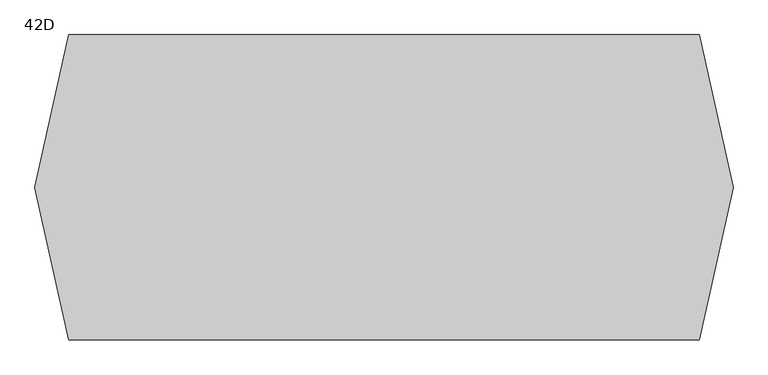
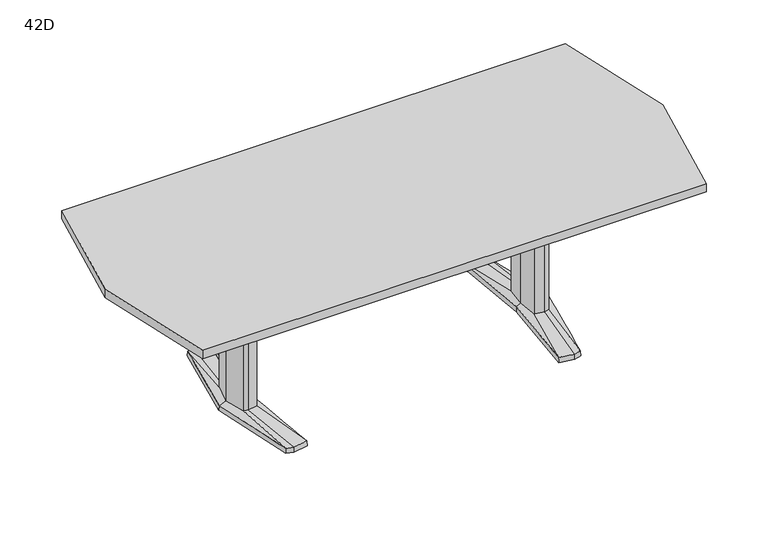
"""IFC4 building model written with IfcOpenShell, lengths in millimetres: furniture geometry, Coalesse_AM_Table_Conference_ETable2_Faceted_96in_AluminiumBase : 42D."""

from ifc_helpers import new_model, si_unit, frame, origin, place, context, project, spatial, polyline, outline, extrude, source, transform, mapped, element, save
from ifc_brep_helpers import plane_surface, spline_surface, advanced_brep


def furniture_42d_1a5c040f(model_context):
    return source(origin(), model_context, "Body", "SolidModel", [
        advanced_brep(
        [(614.8503471, -379.3768856, 25.4), (644.5756636, -371.5332654, 25.4), (668.2327243, -89.293702, 36.5125), (648.9795254, -94.605478, 36.5125), (606.0521001, -87.0529327, 36.5125), (551.7612538, -368.5071562, 25.4), (597.9364207, 0.0, 36.5125), (579.8389754, 0.3970149, 25.4), (606.0521001, 87.0529327, 36.5125), (551.7615002, 368.5172593, 25.4), (648.9795254, 94.605478, 36.5125), (614.8502233, 379.3769183, 25.4), (668.2327243, 89.293702, 36.5125), (644.7535458, 371.4863276, 25.4), (692.1595251, 0.0, 36.5125), (721.4851663, 0.0003516, 25.4), (578.2468742, 0.3968871, 3.175), (550.06875, 369.8367279, 3.175), (614.9213004, 381.0, 3.175), (646.1093245, 372.7704151, 3.175), (723.10625, 0.0, 3.175), (645.9309817, -372.8174744, 3.175), (614.9213004, -381.0, 3.175), (550.06875, -369.8264415, 3.175), (649.5979264, 107.6121478, 3.175), (594.3065451, 97.8843184, 3.175), (585.1810887, 0.0, 3.175), (594.3065451, -97.8843184, 3.175), (649.5979264, -107.6121478, 3.175), (678.6183473, -99.6056872, 3.175), (705.3083085, 0.0, 3.175), (678.6183473, 99.6056872, 3.175), (613.4286812, 346.9152841, 3.175), (557.7811371, 337.3364985, 3.175), (560.1889918, 324.8641942, 3.175), (612.8600644, 333.9306305, 3.175), (648.6725609, 324.4807859, 3.175), (647.5544526, 337.9105158, 3.175), (613.4286812, -346.9152841, 3.175), (647.5544526, -337.9105158, 3.175), (648.6725609, -324.4807859, 3.175), (612.8600644, -333.9306305, 3.175), (560.1889918, -324.8641942, 3.175), (557.7811371, -337.3364985, 3.175), (649.5979264, 107.6121478, 0.0), (678.6183473, 99.6056872, 0.0), (705.3083085, 0.0, 0.0), (678.6183473, -99.6056872, 0.0), (649.5979264, -107.6121478, 0.0), (594.3065451, -97.8843184, 0.0), (585.1810887, 0.0, 0.0), (594.3065451, 97.8843184, 0.0), (613.4286812, 346.9152841, 0.0), (647.5544526, 337.9105158, 0.0), (648.6725609, 324.4807859, 0.0), (612.8600644, 333.9306305, 0.0), (560.1889918, 324.8641942, 0.0), (557.7811371, 337.3364985, 0.0), (613.4286812, -346.9152841, 0.0), (557.7811371, -337.3364985, 0.0), (560.1889918, -324.8641942, 0.0), (612.8600644, -333.9306305, 0.0), (648.6725609, -324.4807859, 0.0), (647.5544526, -337.9105158, 0.0), (668.2327243, 89.293702, 698.5), (648.9795254, 94.605478, 698.5), (606.0521001, 87.0529327, 698.5), (597.9364207, 0.0, 698.5), (606.0521001, -87.0529327, 698.5), (648.9795254, -94.605478, 698.5), (668.2327243, -89.293702, 698.5), (692.1595251, 0.0, 698.5)],
        [
            (0, 1),
            (1, 2),
            (2, 3),
            (3, 0),
            (3, 4),
            (4, 5),
            (5, 0),
            (4, 6),
            (6, 7),
            (7, 5),
            (6, 8),
            (8, 9),
            (9, 7),
            (8, 10),
            (10, 11),
            (11, 9),
            (10, 12),
            (12, 13),
            (13, 11),
            (12, 14),
            (14, 15),
            (15, 13),
            (1, 15),
            (14, 2),
            (16, 17),
            (17, 18),
            (18, 19),
            (19, 20),
            (20, 21),
            (21, 22),
            (22, 23),
            (23, 16),
            (24, 25),
            (25, 26),
            (26, 27),
            (27, 28),
            (28, 29),
            (29, 30),
            (30, 31),
            (31, 24),
            (32, 33),
            (33, 34),
            (34, 35),
            (35, 36),
            (36, 37),
            (37, 32),
            (38, 39),
            (39, 40),
            (40, 41),
            (41, 42),
            (42, 43),
            (43, 38),
            (16, 7),
            (9, 17),
            (11, 18),
            (13, 19),
            (15, 20),
            (1, 21),
            (0, 22),
            (5, 23),
            (44, 45),
            (45, 46),
            (46, 47),
            (47, 48),
            (48, 49),
            (49, 50),
            (50, 51),
            (51, 44),
            (52, 53),
            (53, 54),
            (54, 55),
            (55, 56),
            (56, 57),
            (57, 52),
            (58, 59),
            (59, 60),
            (60, 61),
            (61, 62),
            (62, 63),
            (63, 58),
            (44, 24),
            (31, 45),
            (30, 46),
            (29, 47),
            (28, 48),
            (27, 49),
            (26, 50),
            (25, 51),
            (52, 32),
            (37, 53),
            (36, 54),
            (35, 55),
            (34, 56),
            (33, 57),
            (58, 38),
            (43, 59),
            (42, 60),
            (41, 61),
            (40, 62),
            (39, 63),
            (64, 65),
            (65, 66),
            (66, 67),
            (67, 68),
            (68, 69),
            (69, 70),
            (70, 71),
            (71, 64),
            (71, 14),
            (12, 64),
            (70, 2),
            (69, 3),
            (68, 4),
            (67, 6),
            (66, 8),
            (65, 10),
        ],
        [
            spline_surface(1, 1, [[(644.5756636, -371.5332654, 25.4), (614.8503471, -379.3768856, 25.4)], [(668.2327243, -89.293702, 36.5125), (648.9795254, -94.605478, 36.5125)]], [2, 2], [2, 2], [0.0, 1.0], [0.0, 1.0]),
            spline_surface(1, 1, [[(614.8503471, -379.3768856, 25.4), (551.7612538, -368.5071562, 25.4)], [(648.9795254, -94.605478, 36.5125), (606.0521001, -87.0529327, 36.5125)]], [2, 2], [2, 2], [0.0, 1.0], [0.0, 1.0]),
            spline_surface(1, 1, [[(551.7612538, -368.5071562, 25.4), (579.8389754, 0.3970149, 25.4)], [(606.0521001, -87.0529327, 36.5125), (597.9364207, 0.0, 36.5125)]], [2, 2], [2, 2], [0.0, 1.0], [0.0, 1.0]),
            spline_surface(1, 1, [[(579.8389754, 0.3970149, 25.4), (551.7615002, 368.5172593, 25.4)], [(597.9364207, 0.0, 36.5125), (606.0521001, 87.0529327, 36.5125)]], [2, 2], [2, 2], [0.0, 1.0], [0.0, 1.0]),
            spline_surface(1, 1, [[(551.7615002, 368.5172593, 25.4), (614.8502233, 379.3769183, 25.4)], [(606.0521001, 87.0529327, 36.5125), (648.9795254, 94.605478, 36.5125)]], [2, 2], [2, 2], [0.0, 1.0], [0.0, 1.0]),
            spline_surface(1, 1, [[(614.8502233, 379.3769183, 25.4), (644.7535458, 371.4863276, 25.4)], [(648.9795254, 94.605478, 36.5125), (668.2327243, 89.293702, 36.5125)]], [2, 2], [2, 2], [0.0, 1.0], [0.0, 1.0]),
            spline_surface(1, 1, [[(644.7535458, 371.4863276, 25.4), (721.4851663, 0.0003516, 25.4)], [(668.2327243, 89.293702, 36.5125), (692.1595251, 0.0, 36.5125)]], [2, 2], [2, 2], [0.0, 1.0], [0.0, 1.0]),
            spline_surface(1, 1, [[(721.4851663, 0.0003516, 25.4), (644.5756636, -371.5332654, 25.4)], [(692.1595251, 0.0, 36.5125), (668.2327243, -89.293702, 36.5125)]], [2, 2], [2, 2], [0.0, 1.0], [0.0, 1.0]),
            plane_surface(frame((615.4216914, 0.0450143, 3.175), z_axis=(0.0, 0.0, -1.0), x_axis=(-0.9669048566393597, -0.2551372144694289, 0.0))),
            plane_surface(frame((564.1578121, 185.1168075, 3.175), z_axis=(-0.9945699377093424, -0.07585840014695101, 0.0712470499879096), x_axis=(-0.07605167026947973, 0.9971038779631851, 0.0))),
            plane_surface(frame((582.4950252, 375.418364, 3.175), z_axis=(-0.1692071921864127, 0.9830019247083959, 0.07124704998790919), x_axis=(0.985506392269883, 0.16963829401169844, 0.0))),
            plane_surface(frame((630.5153124, 376.8852076, 3.175), z_axis=(0.2544888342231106, 0.9644476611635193, 0.07124704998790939), x_axis=(0.9669048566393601, -0.25513721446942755, 0.0))),
            plane_surface(frame((684.6077872, 186.3852076, 3.175), z_axis=(0.9768383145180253, 0.2017690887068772, 0.07124704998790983), x_axis=(0.20228315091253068, -0.9793270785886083, 0.0))),
            plane_surface(frame((684.5186158, -186.4087372, 3.175), z_axis=(0.9767507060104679, -0.20219276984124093, 0.07124704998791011), x_axis=(-0.2027079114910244, -0.9792392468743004, 0.0))),
            plane_surface(frame((630.426141, -376.9087372, 3.175), z_axis=(0.2544888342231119, -0.9644476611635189, 0.0712470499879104), x_axis=(-0.9669048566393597, -0.2551372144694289, 0.0))),
            plane_surface(frame((582.4950252, -375.4132207, 3.175), z_axis=(-0.16935861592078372, -0.982975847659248, 0.07124704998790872), x_axis=(-0.9854802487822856, 0.16979010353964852, 0.0))),
            plane_surface(frame((564.1578121, -184.7147772, 3.175), z_axis=(-0.9945820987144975, 0.07569878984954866, 0.07124704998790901), x_axis=(0.07589165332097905, 0.9971160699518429, 0.0))),
            plane_surface(frame((652.3571479, 106.8509046, 0.0), z_axis=(0.0, 0.0, -1.0000000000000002), x_axis=(-0.9639855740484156, 0.26595453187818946, 0.0))),
            plane_surface(frame((649.5979264, 107.6121478, 3.175), z_axis=(0.26595453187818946, 0.9639855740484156, 0.0), x_axis=(0.0, 0.0, -1.0))),
            plane_surface(frame((678.6183473, 99.6056872, 3.175), z_axis=(0.9659241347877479, 0.2588253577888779, 0.0), x_axis=(0.0, 0.0, -1.0))),
            plane_surface(frame((705.3083085, 0.0, 3.175), z_axis=(0.9659241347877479, -0.2588253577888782, 0.0), x_axis=(0.0, 0.0, -1.0))),
            plane_surface(frame((678.6183473, -99.6056872, 3.175), z_axis=(0.26595453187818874, -0.9639855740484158, 0.0), x_axis=(0.0, 0.0, -1.0))),
            plane_surface(frame((649.5979264, -107.6121478, 3.175), z_axis=(-0.17327617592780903, -0.9848732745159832, 0.0), x_axis=(0.0, 0.0, -1.0))),
            plane_surface(frame((594.3065451, -97.8843184, 3.175), z_axis=(-0.9956824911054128, -0.0928244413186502, 0.0), x_axis=(0.0, 0.0, -1.0))),
            plane_surface(frame((585.1810887, 0.0, 3.175), z_axis=(-0.9956824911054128, 0.09282444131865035, 0.0), x_axis=(0.0, 0.0, -1.0))),
            plane_surface(frame((594.3065451, 97.8843184, 3.175), z_axis=(-0.17327617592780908, 0.984873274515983, 0.0), x_axis=(0.0, 0.0, -1.0))),
            plane_surface(frame((613.4286812, 346.9152841, 3.175), z_axis=(0.25513721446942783, 0.9669048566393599, 0.0), x_axis=(0.0, 0.0, -1.0))),
            plane_surface(frame((647.5544526, 337.9105158, 3.175), z_axis=(0.9965521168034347, 0.0829691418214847, 0.0), x_axis=(0.0, 0.0, -1.0))),
            plane_surface(frame((648.6725609, 324.4807859, 3.175), z_axis=(-0.25513721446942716, -0.9669048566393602, 0.0), x_axis=(0.0, 0.0, -1.0))),
            plane_surface(frame((612.8600644, 333.9306305, 3.175), z_axis=(0.16963829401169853, -0.985506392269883, 0.0), x_axis=(0.0, 0.0, -1.0))),
            plane_surface(frame((560.1889918, 324.8641942, 3.175), z_axis=(-0.9818699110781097, -0.18955600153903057, 0.0), x_axis=(0.0, 0.0, -1.0))),
            plane_surface(frame((557.7811371, 337.3364985, 3.175), z_axis=(-0.16963829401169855, 0.9855063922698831, 0.0), x_axis=(0.0, 0.0, -1.0))),
            plane_surface(frame((613.4286812, -346.9152841, 3.175), z_axis=(-0.1696382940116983, -0.9855063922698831, 0.0), x_axis=(0.0, 0.0, -1.0))),
            plane_surface(frame((557.7811371, -337.3364985, 3.175), z_axis=(-0.9818699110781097, 0.18955600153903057, 0.0), x_axis=(0.0, 0.0, -1.0))),
            plane_surface(frame((560.1889918, -324.8641942, 3.175), z_axis=(0.16963829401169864, 0.985506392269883, 0.0), x_axis=(0.0, 0.0, -1.0))),
            plane_surface(frame((612.8600644, -333.9306305, 3.175), z_axis=(-0.2551372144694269, 0.9669048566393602, 0.0), x_axis=(0.0, 0.0, -1.0))),
            plane_surface(frame((648.6725609, -324.4807859, 3.175), z_axis=(0.9965521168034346, -0.0829691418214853, 0.0), x_axis=(0.0, 0.0, -1.0))),
            plane_surface(frame((647.5544526, -337.9105158, 3.175), z_axis=(0.2551372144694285, -0.9669048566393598, 0.0), x_axis=(0.0, 0.0, -1.0))),
            plane_surface(frame((692.1595251, 0.0, 698.5), z_axis=(0.0, 0.0, 1.0), x_axis=(0.25882535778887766, -0.965924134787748, 0.0))),
            plane_surface(frame((668.2327243, 89.293702, 698.5), z_axis=(0.965924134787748, 0.25882535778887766, 0.0), x_axis=(0.0, 0.0, -1.0))),
            plane_surface(frame((692.1595251, 0.0, 698.5), z_axis=(0.965924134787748, -0.2588253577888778, 0.0), x_axis=(0.0, 0.0, -1.0))),
            plane_surface(frame((668.2327243, -89.293702, 698.5), z_axis=(0.2659545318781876, -0.963985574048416, 0.0), x_axis=(0.0, 0.0, -1.0))),
            plane_surface(frame((648.9795254, -94.605478, 698.5), z_axis=(-0.1732761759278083, -0.9848732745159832, 0.0), x_axis=(0.0, 0.0, -1.0))),
            plane_surface(frame((606.0521001, -87.0529327, 698.5), z_axis=(-0.9956824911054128, -0.0928244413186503, 0.0), x_axis=(0.0, 0.0, -1.0))),
            plane_surface(frame((597.9364207, 0.0, 698.5), z_axis=(-0.9956824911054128, 0.09282444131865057, 0.0), x_axis=(0.0, 0.0, -1.0))),
            plane_surface(frame((606.0521001, 87.0529327, 698.5), z_axis=(-0.17327617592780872, 0.9848732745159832, 0.0), x_axis=(0.0, 0.0, -1.0))),
            plane_surface(frame((648.9795254, 94.605478, 698.5), z_axis=(0.26595453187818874, 0.9639855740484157, 0.0), x_axis=(0.0, 0.0, -1.0))),
        ],
        [
            (0, [[1, 2, 3, 4]]),
            (1, [[5, 6, 7, -4]]),
            (2, [[8, 9, 10, -6]]),
            (3, [[11, 12, 13, -9]]),
            (4, [[14, 15, 16, -12]]),
            (5, [[17, 18, 19, -15]]),
            (6, [[20, 21, 22, -18]]),
            (7, [[23, -21, 24, -2]]),
            (8, [[25, 26, 27, 28, 29, 30, 31, 32], [33, 34, 35, 36, 37, 38, 39, 40], [41, 42, 43, 44, 45, 46], [47, 48, 49, 50, 51, 52]]),
            (9, [[53, -13, 54, -25]]),
            (10, [[-54, -16, 55, -26]]),
            (11, [[-55, -19, 56, -27]]),
            (12, [[-56, -22, 57, -28]]),
            (13, [[-57, -23, 58, -29]]),
            (14, [[-58, -1, 59, -30]]),
            (15, [[-59, -7, 60, -31]]),
            (16, [[-60, -10, -53, -32]]),
            (17, [[61, 62, 63, 64, 65, 66, 67, 68]]),
            (17, [[69, 70, 71, 72, 73, 74]]),
            (17, [[75, 76, 77, 78, 79, 80]]),
            (18, [[81, -40, 82, -61]]),
            (19, [[-82, -39, 83, -62]]),
            (20, [[-83, -38, 84, -63]]),
            (21, [[-84, -37, 85, -64]]),
            (22, [[-85, -36, 86, -65]]),
            (23, [[-86, -35, 87, -66]]),
            (24, [[-87, -34, 88, -67]]),
            (25, [[-88, -33, -81, -68]]),
            (26, [[89, -46, 90, -69]]),
            (27, [[-90, -45, 91, -70]]),
            (28, [[-91, -44, 92, -71]]),
            (29, [[-92, -43, 93, -72]]),
            (30, [[-93, -42, 94, -73]]),
            (31, [[-94, -41, -89, -74]]),
            (32, [[95, -52, 96, -75]]),
            (33, [[-96, -51, 97, -76]]),
            (34, [[-97, -50, 98, -77]]),
            (35, [[-98, -49, 99, -78]]),
            (36, [[-99, -48, 100, -79]]),
            (37, [[-100, -47, -95, -80]]),
            (38, [[101, 102, 103, 104, 105, 106, 107, 108]]),
            (39, [[109, -20, 110, -108]]),
            (40, [[111, -24, -109, -107]]),
            (41, [[112, -3, -111, -106]]),
            (42, [[113, -5, -112, -105]]),
            (43, [[114, -8, -113, -104]]),
            (44, [[115, -11, -114, -103]]),
            (45, [[116, -14, -115, -102]]),
            (46, [[-110, -17, -116, -101]]),
        ],
    ),
        advanced_brep(
        [(-614.8503471, -379.3768856, 25.4), (-648.9795254, -94.605478, 36.5125), (-668.2327243, -89.293702, 36.5125), (-644.5756636, -371.5332654, 25.4), (-551.7612538, -368.5071562, 25.4), (-606.0521001, -87.0529327, 36.5125), (-579.8389754, 0.3970149, 25.4), (-597.9364207, 0.0, 36.5125), (-551.7615002, 368.5172593, 25.4), (-606.0521001, 87.0529327, 36.5125), (-614.8502233, 379.3769183, 25.4), (-648.9795254, 94.605478, 36.5125), (-644.7535458, 371.4863276, 25.4), (-668.2327243, 89.293702, 36.5125), (-721.4851663, 0.0003516, 25.4), (-692.1595251, 0.0, 36.5125), (-578.2468742, 0.3968871, 3.175), (-550.06875, -369.8264415, 3.175), (-614.9213004, -381.0, 3.175), (-645.9309817, -372.8174744, 3.175), (-723.10625, 0.0, 3.175), (-646.1093245, 372.7704151, 3.175), (-614.9213004, 381.0, 3.175), (-550.06875, 369.8367279, 3.175), (-649.5979264, 107.6121478, 3.175), (-678.6183473, 99.6056872, 3.175), (-705.3083085, 0.0, 3.175), (-678.6183473, -99.6056872, 3.175), (-649.5979264, -107.6121478, 3.175), (-594.3065451, -97.8843184, 3.175), (-585.1810887, 0.0, 3.175), (-594.3065451, 97.8843184, 3.175), (-613.4286812, 346.9152841, 3.175), (-647.5544526, 337.9105158, 3.175), (-648.6725609, 324.4807859, 3.175), (-612.8600644, 333.9306305, 3.175), (-560.1889918, 324.8641942, 3.175), (-557.7811371, 337.3364985, 3.175), (-613.4286812, -346.9152841, 3.175), (-557.7811371, -337.3364985, 3.175), (-560.1889918, -324.8641942, 3.175), (-612.8600644, -333.9306305, 3.175), (-648.6725609, -324.4807859, 3.175), (-647.5544526, -337.9105158, 3.175), (-649.5979264, 107.6121478, 0.0), (-594.3065451, 97.8843184, 0.0), (-585.1810887, 0.0, 0.0), (-594.3065451, -97.8843184, 0.0), (-649.5979264, -107.6121478, 0.0), (-678.6183473, -99.6056872, 0.0), (-705.3083085, 0.0, 0.0), (-678.6183473, 99.6056872, 0.0), (-613.4286812, 346.9152841, 0.0), (-557.7811371, 337.3364985, 0.0), (-560.1889918, 324.8641942, 0.0), (-612.8600644, 333.9306305, 0.0), (-648.6725609, 324.4807859, 0.0), (-647.5544526, 337.9105158, 0.0), (-613.4286812, -346.9152841, 0.0), (-647.5544526, -337.9105158, 0.0), (-648.6725609, -324.4807859, 0.0), (-612.8600644, -333.9306305, 0.0), (-560.1889918, -324.8641942, 0.0), (-557.7811371, -337.3364985, 0.0), (-668.2327243, 89.293702, 698.5), (-692.1595251, 0.0, 698.5), (-668.2327243, -89.293702, 698.5), (-648.9795254, -94.605478, 698.5), (-606.0521001, -87.0529327, 698.5), (-597.9364207, 0.0, 698.5), (-606.0521001, 87.0529327, 698.5), (-648.9795254, 94.605478, 698.5)],
        [
            (0, 1),
            (1, 2),
            (2, 3),
            (3, 0),
            (0, 4),
            (4, 5),
            (5, 1),
            (4, 6),
            (6, 7),
            (7, 5),
            (6, 8),
            (8, 9),
            (9, 7),
            (8, 10),
            (10, 11),
            (11, 9),
            (10, 12),
            (12, 13),
            (13, 11),
            (12, 14),
            (14, 15),
            (15, 13),
            (2, 15),
            (14, 3),
            (16, 17),
            (17, 18),
            (18, 19),
            (19, 20),
            (20, 21),
            (21, 22),
            (22, 23),
            (23, 16),
            (24, 25),
            (25, 26),
            (26, 27),
            (27, 28),
            (28, 29),
            (29, 30),
            (30, 31),
            (31, 24),
            (32, 33),
            (33, 34),
            (34, 35),
            (35, 36),
            (36, 37),
            (37, 32),
            (38, 39),
            (39, 40),
            (40, 41),
            (41, 42),
            (42, 43),
            (43, 38),
            (23, 8),
            (6, 16),
            (22, 10),
            (21, 12),
            (20, 14),
            (19, 3),
            (18, 0),
            (17, 4),
            (44, 45),
            (45, 46),
            (46, 47),
            (47, 48),
            (48, 49),
            (49, 50),
            (50, 51),
            (51, 44),
            (52, 53),
            (53, 54),
            (54, 55),
            (55, 56),
            (56, 57),
            (57, 52),
            (58, 59),
            (59, 60),
            (60, 61),
            (61, 62),
            (62, 63),
            (63, 58),
            (51, 25),
            (24, 44),
            (50, 26),
            (49, 27),
            (48, 28),
            (47, 29),
            (46, 30),
            (45, 31),
            (57, 33),
            (32, 52),
            (56, 34),
            (55, 35),
            (54, 36),
            (53, 37),
            (63, 39),
            (38, 58),
            (62, 40),
            (61, 41),
            (60, 42),
            (59, 43),
            (64, 65),
            (65, 66),
            (66, 67),
            (67, 68),
            (68, 69),
            (69, 70),
            (70, 71),
            (71, 64),
            (64, 13),
            (15, 65),
            (2, 66),
            (1, 67),
            (5, 68),
            (7, 69),
            (9, 70),
            (11, 71),
        ],
        [
            spline_surface(1, 1, [[(-644.5756636, -371.5332654, 25.4), (-668.2327243, -89.293702, 36.5125)], [(-614.8503471, -379.3768856, 25.4), (-648.9795254, -94.605478, 36.5125)]], [2, 2], [2, 2], [0.0, 1.0], [0.0, 1.0]),
            spline_surface(1, 1, [[(-614.8503471, -379.3768856, 25.4), (-648.9795254, -94.605478, 36.5125)], [(-551.7612538, -368.5071562, 25.4), (-606.0521001, -87.0529327, 36.5125)]], [2, 2], [2, 2], [0.0, 1.0], [0.0, 1.0]),
            spline_surface(1, 1, [[(-551.7612538, -368.5071562, 25.4), (-606.0521001, -87.0529327, 36.5125)], [(-579.8389754, 0.3970149, 25.4), (-597.9364207, 0.0, 36.5125)]], [2, 2], [2, 2], [0.0, 1.0], [0.0, 1.0]),
            spline_surface(1, 1, [[(-579.8389754, 0.3970149, 25.4), (-597.9364207, 0.0, 36.5125)], [(-551.7615002, 368.5172593, 25.4), (-606.0521001, 87.0529327, 36.5125)]], [2, 2], [2, 2], [0.0, 1.0], [0.0, 1.0]),
            spline_surface(1, 1, [[(-551.7615002, 368.5172593, 25.4), (-606.0521001, 87.0529327, 36.5125)], [(-614.8502233, 379.3769183, 25.4), (-648.9795254, 94.605478, 36.5125)]], [2, 2], [2, 2], [0.0, 1.0], [0.0, 1.0]),
            spline_surface(1, 1, [[(-614.8502233, 379.3769183, 25.4), (-648.9795254, 94.605478, 36.5125)], [(-644.7535458, 371.4863276, 25.4), (-668.2327243, 89.293702, 36.5125)]], [2, 2], [2, 2], [0.0, 1.0], [0.0, 1.0]),
            spline_surface(1, 1, [[(-644.7535458, 371.4863276, 25.4), (-668.2327243, 89.293702, 36.5125)], [(-721.4851663, 0.0003516, 25.4), (-692.1595251, 0.0, 36.5125)]], [2, 2], [2, 2], [0.0, 1.0], [0.0, 1.0]),
            spline_surface(1, 1, [[(-721.4851663, 0.0003516, 25.4), (-692.1595251, 0.0, 36.5125)], [(-644.5756636, -371.5332654, 25.4), (-668.2327243, -89.293702, 36.5125)]], [2, 2], [2, 2], [0.0, 1.0], [0.0, 1.0]),
            plane_surface(frame((-615.4216914, 0.0450143, 3.175), z_axis=(0.0, 0.0, -1.0), x_axis=(0.9669048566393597, -0.2551372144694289, 0.0))),
            plane_surface(frame((-564.1578121, 185.1168075, 3.175), z_axis=(0.9945699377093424, -0.07585840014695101, 0.0712470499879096), x_axis=(0.07605167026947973, 0.9971038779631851, 0.0))),
            plane_surface(frame((-582.4950252, 375.418364, 3.175), z_axis=(0.1692071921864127, 0.9830019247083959, 0.07124704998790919), x_axis=(-0.985506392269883, 0.16963829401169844, 0.0))),
            plane_surface(frame((-630.5153124, 376.8852076, 3.175), z_axis=(-0.2544888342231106, 0.9644476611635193, 0.07124704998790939), x_axis=(-0.9669048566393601, -0.25513721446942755, 0.0))),
            plane_surface(frame((-684.6077872, 186.3852076, 3.175), z_axis=(-0.9768383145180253, 0.2017690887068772, 0.07124704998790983), x_axis=(-0.20228315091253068, -0.9793270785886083, 0.0))),
            plane_surface(frame((-684.5186158, -186.4087372, 3.175), z_axis=(-0.9767507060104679, -0.20219276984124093, 0.07124704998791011), x_axis=(0.2027079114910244, -0.9792392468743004, 0.0))),
            plane_surface(frame((-630.426141, -376.9087372, 3.175), z_axis=(-0.2544888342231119, -0.9644476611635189, 0.0712470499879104), x_axis=(0.9669048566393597, -0.2551372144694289, 0.0))),
            plane_surface(frame((-582.4950252, -375.4132207, 3.175), z_axis=(0.16935861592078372, -0.982975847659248, 0.07124704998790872), x_axis=(0.9854802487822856, 0.16979010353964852, 0.0))),
            plane_surface(frame((-564.1578121, -184.7147772, 3.175), z_axis=(0.9945820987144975, 0.07569878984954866, 0.07124704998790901), x_axis=(-0.07589165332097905, 0.9971160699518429, 0.0))),
            plane_surface(frame((-652.3571479, 106.8509046, 0.0), z_axis=(0.0, 0.0, -1.0000000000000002), x_axis=(0.9639855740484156, 0.26595453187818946, 0.0))),
            plane_surface(frame((-649.5979264, 107.6121478, 3.175), z_axis=(-0.26595453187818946, 0.9639855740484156, 0.0), x_axis=(0.0, 0.0, -1.0))),
            plane_surface(frame((-678.6183473, 99.6056872, 3.175), z_axis=(-0.9659241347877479, 0.2588253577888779, 0.0), x_axis=(0.0, 0.0, -1.0))),
            plane_surface(frame((-705.3083085, 0.0, 3.175), z_axis=(-0.9659241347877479, -0.2588253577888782, 0.0), x_axis=(0.0, 0.0, -1.0))),
            plane_surface(frame((-678.6183473, -99.6056872, 3.175), z_axis=(-0.26595453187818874, -0.9639855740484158, 0.0), x_axis=(0.0, 0.0, -1.0))),
            plane_surface(frame((-649.5979264, -107.6121478, 3.175), z_axis=(0.17327617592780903, -0.9848732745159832, 0.0), x_axis=(0.0, 0.0, -1.0))),
            plane_surface(frame((-594.3065451, -97.8843184, 3.175), z_axis=(0.9956824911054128, -0.0928244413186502, 0.0), x_axis=(0.0, 0.0, -1.0))),
            plane_surface(frame((-585.1810887, 0.0, 3.175), z_axis=(0.9956824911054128, 0.09282444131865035, 0.0), x_axis=(0.0, 0.0, -1.0))),
            plane_surface(frame((-594.3065451, 97.8843184, 3.175), z_axis=(0.17327617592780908, 0.984873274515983, 0.0), x_axis=(0.0, 0.0, -1.0))),
            plane_surface(frame((-613.4286812, 346.9152841, 3.175), z_axis=(-0.25513721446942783, 0.9669048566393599, 0.0), x_axis=(0.0, 0.0, -1.0))),
            plane_surface(frame((-647.5544526, 337.9105158, 3.175), z_axis=(-0.9965521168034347, 0.0829691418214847, 0.0), x_axis=(0.0, 0.0, -1.0))),
            plane_surface(frame((-648.6725609, 324.4807859, 3.175), z_axis=(0.25513721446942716, -0.9669048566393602, 0.0), x_axis=(0.0, 0.0, -1.0))),
            plane_surface(frame((-612.8600644, 333.9306305, 3.175), z_axis=(-0.16963829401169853, -0.985506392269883, 0.0), x_axis=(0.0, 0.0, -1.0))),
            plane_surface(frame((-560.1889918, 324.8641942, 3.175), z_axis=(0.9818699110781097, -0.18955600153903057, 0.0), x_axis=(0.0, 0.0, -1.0))),
            plane_surface(frame((-557.7811371, 337.3364985, 3.175), z_axis=(0.16963829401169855, 0.9855063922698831, 0.0), x_axis=(0.0, 0.0, -1.0))),
            plane_surface(frame((-613.4286812, -346.9152841, 3.175), z_axis=(0.1696382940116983, -0.9855063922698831, 0.0), x_axis=(0.0, 0.0, -1.0))),
            plane_surface(frame((-557.7811371, -337.3364985, 3.175), z_axis=(0.9818699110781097, 0.18955600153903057, 0.0), x_axis=(0.0, 0.0, -1.0))),
            plane_surface(frame((-560.1889918, -324.8641942, 3.175), z_axis=(-0.16963829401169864, 0.985506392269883, 0.0), x_axis=(0.0, 0.0, -1.0))),
            plane_surface(frame((-612.8600644, -333.9306305, 3.175), z_axis=(0.2551372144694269, 0.9669048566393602, 0.0), x_axis=(0.0, 0.0, -1.0))),
            plane_surface(frame((-648.6725609, -324.4807859, 3.175), z_axis=(-0.9965521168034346, -0.0829691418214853, 0.0), x_axis=(0.0, 0.0, -1.0))),
            plane_surface(frame((-647.5544526, -337.9105158, 3.175), z_axis=(-0.2551372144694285, -0.9669048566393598, 0.0), x_axis=(0.0, 0.0, -1.0))),
            plane_surface(frame((-692.1595251, 0.0, 698.5), z_axis=(0.0, 0.0, 1.0), x_axis=(-0.25882535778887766, -0.965924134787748, 0.0))),
            plane_surface(frame((-668.2327243, 89.293702, 698.5), z_axis=(-0.965924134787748, 0.25882535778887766, 0.0), x_axis=(0.0, 0.0, -1.0))),
            plane_surface(frame((-692.1595251, 0.0, 698.5), z_axis=(-0.965924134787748, -0.2588253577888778, 0.0), x_axis=(0.0, 0.0, -1.0))),
            plane_surface(frame((-668.2327243, -89.293702, 698.5), z_axis=(-0.2659545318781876, -0.963985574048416, 0.0), x_axis=(0.0, 0.0, -1.0))),
            plane_surface(frame((-648.9795254, -94.605478, 698.5), z_axis=(0.1732761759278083, -0.9848732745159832, 0.0), x_axis=(0.0, 0.0, -1.0))),
            plane_surface(frame((-606.0521001, -87.0529327, 698.5), z_axis=(0.9956824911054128, -0.0928244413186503, 0.0), x_axis=(0.0, 0.0, -1.0))),
            plane_surface(frame((-597.9364207, 0.0, 698.5), z_axis=(0.9956824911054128, 0.09282444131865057, 0.0), x_axis=(0.0, 0.0, -1.0))),
            plane_surface(frame((-606.0521001, 87.0529327, 698.5), z_axis=(0.17327617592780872, 0.9848732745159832, 0.0), x_axis=(0.0, 0.0, -1.0))),
            plane_surface(frame((-648.9795254, 94.605478, 698.5), z_axis=(-0.26595453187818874, 0.9639855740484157, 0.0), x_axis=(0.0, 0.0, -1.0))),
        ],
        [
            (0, [[1, 2, 3, 4]]),
            (1, [[-1, 5, 6, 7]]),
            (2, [[-6, 8, 9, 10]]),
            (3, [[-9, 11, 12, 13]]),
            (4, [[-12, 14, 15, 16]]),
            (5, [[-15, 17, 18, 19]]),
            (6, [[-18, 20, 21, 22]]),
            (7, [[-3, 23, -21, 24]]),
            (8, [[25, 26, 27, 28, 29, 30, 31, 32], [33, 34, 35, 36, 37, 38, 39, 40], [41, 42, 43, 44, 45, 46], [47, 48, 49, 50, 51, 52]]),
            (9, [[-32, 53, -11, 54]]),
            (10, [[-31, 55, -14, -53]]),
            (11, [[-30, 56, -17, -55]]),
            (12, [[-29, 57, -20, -56]]),
            (13, [[-28, 58, -24, -57]]),
            (14, [[-27, 59, -4, -58]]),
            (15, [[-26, 60, -5, -59]]),
            (16, [[-25, -54, -8, -60]]),
            (17, [[61, 62, 63, 64, 65, 66, 67, 68]]),
            (17, [[69, 70, 71, 72, 73, 74]]),
            (17, [[75, 76, 77, 78, 79, 80]]),
            (18, [[-68, 81, -33, 82]]),
            (19, [[-67, 83, -34, -81]]),
            (20, [[-66, 84, -35, -83]]),
            (21, [[-65, 85, -36, -84]]),
            (22, [[-64, 86, -37, -85]]),
            (23, [[-63, 87, -38, -86]]),
            (24, [[-62, 88, -39, -87]]),
            (25, [[-61, -82, -40, -88]]),
            (26, [[-74, 89, -41, 90]]),
            (27, [[-73, 91, -42, -89]]),
            (28, [[-72, 92, -43, -91]]),
            (29, [[-71, 93, -44, -92]]),
            (30, [[-70, 94, -45, -93]]),
            (31, [[-69, -90, -46, -94]]),
            (32, [[-80, 95, -47, 96]]),
            (33, [[-79, 97, -48, -95]]),
            (34, [[-78, 98, -49, -97]]),
            (35, [[-77, 99, -50, -98]]),
            (36, [[-76, 100, -51, -99]]),
            (37, [[-75, -96, -52, -100]]),
            (38, [[101, 102, 103, 104, 105, 106, 107, 108]]),
            (39, [[-101, 109, -22, 110]]),
            (40, [[-102, -110, -23, 111]]),
            (41, [[-103, -111, -2, 112]]),
            (42, [[-104, -112, -7, 113]]),
            (43, [[-105, -113, -10, 114]]),
            (44, [[-106, -114, -13, 115]]),
            (45, [[-107, -115, -16, 116]]),
            (46, [[-108, -116, -19, -109]]),
        ],
    ),
        extrude(outline(polyline([(96.8375, 698.5), (103.1875, 698.5), (103.1875, 476.25), (-103.1875, 476.25), (-103.1875, 698.5), (-96.8375, 698.5), (-96.8375, 482.6), (96.8375, 482.6), (96.8375, 698.5)])), frame((-597.9364207, 0.0, 0.0), z_axis=(1.0, 0.0, 0.0), x_axis=(0.0, 1.0, 0.0)), (0.0, 0.0, 1.0), 1195.8728415),
        extrude(outline(polyline([(1100.947407, 533.4), (1219.2, 0.0), (1100.947407, -533.4), (-1100.947407, -533.4), (-1219.2, 0.0), (-1100.947407, 533.4), (1100.947407, 533.4)])), frame((0.0, 0.0, 698.5), z_axis=(0.0, 0.0, 1.0), x_axis=(1.0, 0.0, 0.0)), (0.0, 0.0, 1.0), 38.1),
    ])


if __name__ == "__main__":
    model = new_model("IFC4")
    model_context = context("Model", 3, world=origin())
    ifc_project = project(units=[si_unit("LENGTHUNIT", "METRE", prefix="MILLI")], contexts=[model_context])
    site = spatial("IfcSite", under=ifc_project)
    building = spatial("IfcBuilding", under=site)
    placement = place(None, origin())
    furniture_42d_shape = furniture_42d_1a5c040f(model_context)
    element("IfcFurniture", 1, ObjectType="Coalesse_AM_Table_Conference_ETable2_Faceted_96in_AluminiumBase : 42D", at=placement, inside=building, context=model_context, shape_type="MappedRepresentation", body=[
        mapped(furniture_42d_shape, transform((0.0, 0.0, 0.0), x_axis=(1.0, 0.0, 0.0), y_axis=(0.0, 1.0, 0.0), z_axis=(0.0, 0.0, 1.0))),
    ])
    save(model, "model.ifc")
